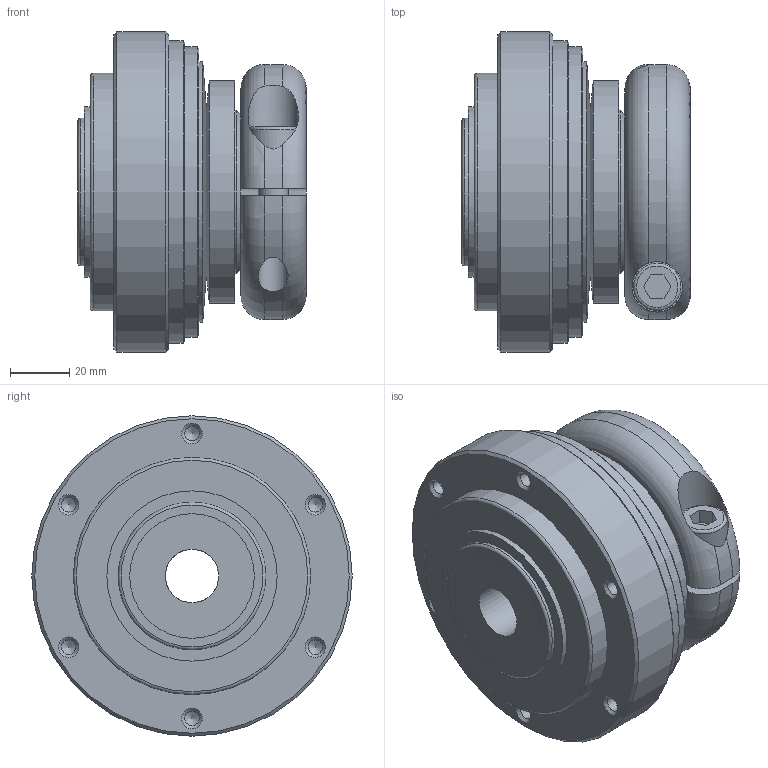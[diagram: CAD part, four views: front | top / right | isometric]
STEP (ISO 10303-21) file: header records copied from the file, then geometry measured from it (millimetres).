
FILE_DESCRIPTION(/* description */ ('Unknown'),/* implementation_level */ '2;1');
FILE_NAME(/* name */ 'SKVA-K 70',/* time_stamp */ '2025-02-12T11:34:54+01:00',/* author */ ('Unknown'),/* organization */ ('Unknown'),/* preprocessor_version */ 'ST-DEVELOPER v18.102',/* originating_system */ 'Solid Edge',/* authorisation */ 'Unknown');
FILE_SCHEMA (('AUTOMOTIVE_DESIGN {1 0 10303 214 3 1 1}'));
Length unit declared in the file: millimetre
Products named in the file (1): SKVA-K  70
Bounding box: 76.97 x 108 x 108 mm (x, y, z)
Volume: 450521.5 mm3; surface area: 56469.4 mm2
Topology: 1 solids, 2 shells, 81 faces, 189 edges, 121 vertices
Faces by surface type: plane 26, cylinder 26, cone 24, torus 5
Full cylindrical faces by diameter (mm): 4.917 x12, 10 x3, 16 x1, 17 x1, 18 x1, 49.8 x1, 55 x1, 57.4 x1, 75 x1, 80 x1, 98 x1, 102 x1, 108 x1
Entity records: 2508 total; most frequent: CARTESIAN_POINT 379, DIRECTION 336, ORIENTED_EDGE 226, AXIS2_PLACEMENT_3D 155, FACE_BOUND 150, EDGE_LOOP 144, EDGE_CURVE 113, VERTEX_POINT 101
